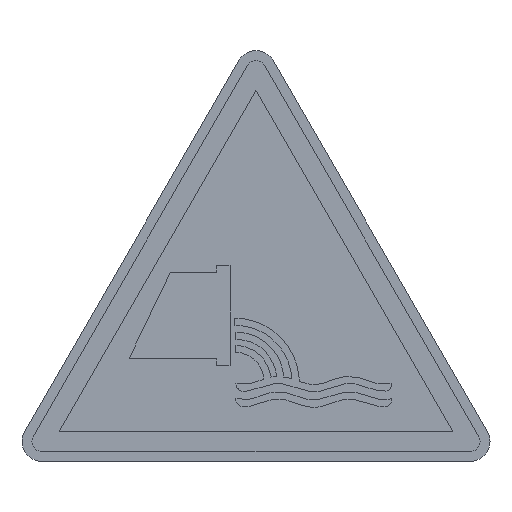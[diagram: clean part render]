
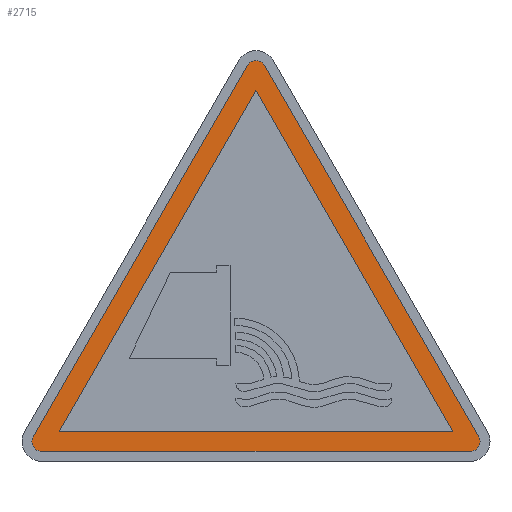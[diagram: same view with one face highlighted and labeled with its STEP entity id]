
A CAD part, top view. The second image highlights one B-rep face of the part: STEP entity #2715.
In plain terms, the highlighted planar face has unit normal (0, 0, 1).
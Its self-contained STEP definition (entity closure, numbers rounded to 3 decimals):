
#23 = ORIENTED_EDGE ( 'NONE', *, *, #5895, .F. ) ;
#28 = ORIENTED_EDGE ( 'NONE', *, *, #1648, .T. ) ;
#102 = DIRECTION ( 'NONE',  ( 0., 0., 1. ) ) ;
#205 = EDGE_CURVE ( 'NONE', #3436, #6732, #2741, .T. ) ;
#259 = AXIS2_PLACEMENT_3D ( 'NONE', #5087, #102, #5019 ) ;
#320 = CARTESIAN_POINT ( 'NONE',  ( -19.804, 3., 0.22 ) ) ;
#326 = DIRECTION ( 'NONE',  ( 0., 0., 1. ) ) ;
#520 = DIRECTION ( 'NONE',  ( 1., 0., 0. ) ) ;
#816 = LINE ( 'NONE', #320, #4618 ) ;
#983 = ORIENTED_EDGE ( 'NONE', *, *, #6662, .T. ) ;
#1203 = CARTESIAN_POINT ( 'NONE',  ( 0., 39.301, 0.22 ) ) ;
#1238 = FACE_OUTER_BOUND ( 'NONE', #6694, .T. ) ;
#1264 = VECTOR ( 'NONE', #2977, 1000. ) ;
#1365 = CIRCLE ( 'NONE', #3227, 1. ) ;
#1368 = CARTESIAN_POINT ( 'NONE',  ( 19.804, 3., 0.22 ) ) ;
#1452 = CIRCLE ( 'NONE', #6562, 1. ) ;
#1516 = CARTESIAN_POINT ( 'NONE',  ( 19.804, 3., 0.22 ) ) ;
#1565 = DIRECTION ( 'NONE',  ( 1., 0., 0. ) ) ;
#1645 = CARTESIAN_POINT ( 'NONE',  ( -22.536, 2., 0.22 ) ) ;
#1648 = EDGE_CURVE ( 'NONE', #6886, #6154, #1365, .T. ) ;
#1724 = FACE_BOUND ( 'NONE', #3954, .T. ) ;
#1726 = VERTEX_POINT ( 'NONE', #6730 ) ;
#1933 = CARTESIAN_POINT ( 'NONE',  ( 0.866, 39.801, 0.22 ) ) ;
#2002 = CARTESIAN_POINT ( 'NONE',  ( 21.536, 1., 0.22 ) ) ;
#2192 = DIRECTION ( 'NONE',  ( 1., 0., 0. ) ) ;
#2280 = CARTESIAN_POINT ( 'NONE',  ( 21.536, 2., 0.22 ) ) ;
#2374 = ORIENTED_EDGE ( 'NONE', *, *, #4985, .T. ) ;
#2471 = ORIENTED_EDGE ( 'NONE', *, *, #5562, .F. ) ;
#2486 = DIRECTION ( 'NONE',  ( -0.5, -0.866, 0. ) ) ;
#2715 = ADVANCED_FACE ( 'NONE', ( #1238, #1724 ), #3390, .T. ) ;
#2741 = LINE ( 'NONE', #5387, #3697 ) ;
#2893 = DIRECTION ( 'NONE',  ( 0., 0., 1. ) ) ;
#2977 = DIRECTION ( 'NONE',  ( 1., 0., 0. ) ) ;
#3063 = CARTESIAN_POINT ( 'NONE',  ( -0.866, 39.801, 0.22 ) ) ;
#3100 = LINE ( 'NONE', #3063, #5075 ) ;
#3109 = AXIS2_PLACEMENT_3D ( 'NONE', #1203, #5640, #5102 ) ;
#3205 = DIRECTION ( 'NONE',  ( 0., 0., 1. ) ) ;
#3227 = AXIS2_PLACEMENT_3D ( 'NONE', #6474, #326, #1565 ) ;
#3250 = VERTEX_POINT ( 'NONE', #1516 ) ;
#3390 = PLANE ( 'NONE',  #3109 ) ;
#3436 = VERTEX_POINT ( 'NONE', #5045 ) ;
#3660 = VECTOR ( 'NONE', #6382, 1000. ) ;
#3697 = VECTOR ( 'NONE', #4383, 1000. ) ;
#3910 = ORIENTED_EDGE ( 'NONE', *, *, #5366, .T. ) ;
#3954 = EDGE_LOOP ( 'NONE', ( #23, #2471, #6174 ) ) ;
#4019 = AXIS2_PLACEMENT_3D ( 'NONE', #2280, #2893, #520 ) ;
#4029 = EDGE_CURVE ( 'NONE', #1726, #6886, #5497, .T. ) ;
#4193 = DIRECTION ( 'NONE',  ( 1., 0., 0. ) ) ;
#4237 = CARTESIAN_POINT ( 'NONE',  ( 0., 37.301, 0.22 ) ) ;
#4362 = CARTESIAN_POINT ( 'NONE',  ( -0.866, 39.801, 0.22 ) ) ;
#4383 = DIRECTION ( 'NONE',  ( -0.5, 0.866, 0. ) ) ;
#4394 = ORIENTED_EDGE ( 'NONE', *, *, #4029, .T. ) ;
#4505 = VERTEX_POINT ( 'NONE', #5585 ) ;
#4618 = VECTOR ( 'NONE', #4193, 1000. ) ;
#4918 = CARTESIAN_POINT ( 'NONE',  ( 0., 39.301, 0.22 ) ) ;
#4985 = EDGE_CURVE ( 'NONE', #6732, #6557, #1452, .T. ) ;
#5019 = DIRECTION ( 'NONE',  ( 1., 0., 0. ) ) ;
#5031 = EDGE_CURVE ( 'NONE', #3250, #5401, #5676, .T. ) ;
#5045 = CARTESIAN_POINT ( 'NONE',  ( 22.402, 2.5, 0.22 ) ) ;
#5075 = VECTOR ( 'NONE', #5322, 1000. ) ;
#5087 = CARTESIAN_POINT ( 'NONE',  ( -21.536, 2., 0.22 ) ) ;
#5102 = DIRECTION ( 'NONE',  ( 1., 0., 0. ) ) ;
#5241 = EDGE_CURVE ( 'NONE', #7035, #3436, #6920, .T. ) ;
#5322 = DIRECTION ( 'NONE',  ( -0.5, -0.866, 0. ) ) ;
#5361 = ORIENTED_EDGE ( 'NONE', *, *, #5241, .T. ) ;
#5366 = EDGE_CURVE ( 'NONE', #6557, #1726, #3100, .T. ) ;
#5387 = CARTESIAN_POINT ( 'NONE',  ( 22.402, 2.5, 0.22 ) ) ;
#5401 = VERTEX_POINT ( 'NONE', #5509 ) ;
#5406 = CARTESIAN_POINT ( 'NONE',  ( -21.536, 1., 0.22 ) ) ;
#5497 = CIRCLE ( 'NONE', #259, 1. ) ;
#5509 = CARTESIAN_POINT ( 'NONE',  ( 0., 37.301, 0.22 ) ) ;
#5562 = EDGE_CURVE ( 'NONE', #5401, #4505, #6436, .T. ) ;
#5585 = CARTESIAN_POINT ( 'NONE',  ( -19.804, 3., 0.22 ) ) ;
#5640 = DIRECTION ( 'NONE',  ( 0., 0., 1. ) ) ;
#5676 = LINE ( 'NONE', #1368, #3660 ) ;
#5743 = ORIENTED_EDGE ( 'NONE', *, *, #205, .T. ) ;
#5764 = VECTOR ( 'NONE', #2486, 1000. ) ;
#5850 = LINE ( 'NONE', #6322, #1264 ) ;
#5895 = EDGE_CURVE ( 'NONE', #4505, #3250, #816, .T. ) ;
#6154 = VERTEX_POINT ( 'NONE', #5406 ) ;
#6174 = ORIENTED_EDGE ( 'NONE', *, *, #5031, .F. ) ;
#6322 = CARTESIAN_POINT ( 'NONE',  ( -21.536, 1., 0.22 ) ) ;
#6382 = DIRECTION ( 'NONE',  ( -0.5, 0.866, 0. ) ) ;
#6436 = LINE ( 'NONE', #4237, #5764 ) ;
#6474 = CARTESIAN_POINT ( 'NONE',  ( -21.536, 2., 0.22 ) ) ;
#6557 = VERTEX_POINT ( 'NONE', #4362 ) ;
#6562 = AXIS2_PLACEMENT_3D ( 'NONE', #4918, #3205, #2192 ) ;
#6662 = EDGE_CURVE ( 'NONE', #6154, #7035, #5850, .T. ) ;
#6694 = EDGE_LOOP ( 'NONE', ( #2374, #3910, #4394, #28, #983, #5361, #5743 ) ) ;
#6730 = CARTESIAN_POINT ( 'NONE',  ( -22.402, 2.5, 0.22 ) ) ;
#6732 = VERTEX_POINT ( 'NONE', #1933 ) ;
#6886 = VERTEX_POINT ( 'NONE', #1645 ) ;
#6920 = CIRCLE ( 'NONE', #4019, 1. ) ;
#7035 = VERTEX_POINT ( 'NONE', #2002 ) ;
